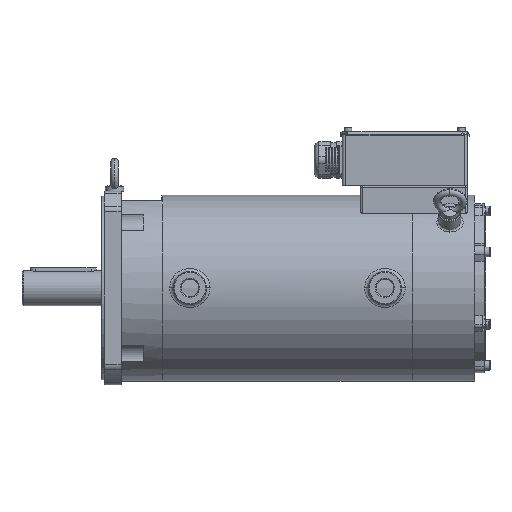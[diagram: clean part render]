
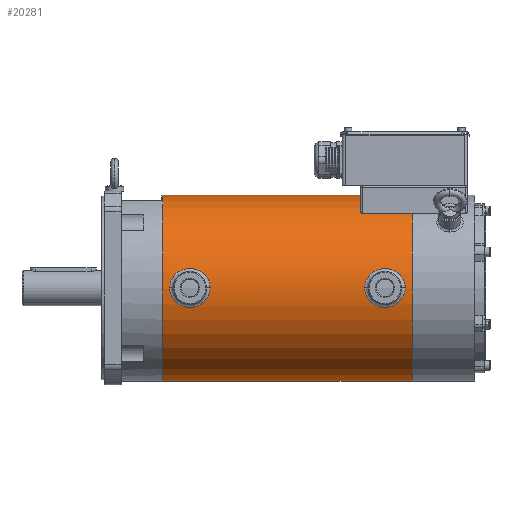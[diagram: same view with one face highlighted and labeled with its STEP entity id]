
A CAD part, top view. The second image highlights one B-rep face of the part: STEP entity #20281.
In plain terms, the highlighted cylindrical face has radius 126.5 mm (diameter 253 mm), a partial arc.
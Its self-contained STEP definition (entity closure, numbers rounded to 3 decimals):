
#14531=DIRECTION('',(-1.,0.,0.));
#14532=VECTOR('',#14531,339.5);
#14533=CARTESIAN_POINT('',(531.,126.5,0.));
#14534=LINE('',#14533,#14532);
#14616=CARTESIAN_POINT('',(531.,0.,0.));
#14617=DIRECTION('',(1.,0.,0.));
#14618=DIRECTION('',(0.,1.,0.));
#14619=AXIS2_PLACEMENT_3D('',#14616,#14617,#14618);
#14621=DIRECTION('',(-1.,0.,0.));
#14622=VECTOR('',#14621,339.5);
#14623=CARTESIAN_POINT('',(531.,-126.5,0.));
#14624=LINE('',#14623,#14622);
#14625=CARTESIAN_POINT('',(191.5,0.,0.));
#14626=DIRECTION('',(-1.,0.,0.));
#14627=DIRECTION('',(0.,-1.,0.));
#14628=AXIS2_PLACEMENT_3D('',#14625,#14626,#14627);
#14630=CARTESIAN_POINT('',(466.5,0.,126.5));
#14631=CARTESIAN_POINT('',(466.5,-1.821,
126.5));
#14632=CARTESIAN_POINT('',(466.882,-5.398,
126.422));
#14633=CARTESIAN_POINT('',(468.611,-10.654,
126.085));
#14634=CARTESIAN_POINT('',(471.456,-15.49,
125.576));
#14635=CARTESIAN_POINT('',(475.352,-19.717,
124.974));
#14636=CARTESIAN_POINT('',(480.121,-23.071,
124.389));
#14637=CARTESIAN_POINT('',(485.508,-25.372,
123.933));
#14638=CARTESIAN_POINT('',(491.272,-26.525,
123.688));
#14639=CARTESIAN_POINT('',(497.163,-26.481,
123.697));
#14640=CARTESIAN_POINT('',(502.923,-25.236,
123.962));
#14641=CARTESIAN_POINT('',(508.277,-22.845,
124.432));
#14642=CARTESIAN_POINT('',(512.948,-19.438,
125.017));
#14643=CARTESIAN_POINT('',(516.69,-15.281,
125.601));
#14644=CARTESIAN_POINT('',(519.513,-10.393,
126.108));
#14645=CARTESIAN_POINT('',(521.176,-5.086,
126.434));
#14646=CARTESIAN_POINT('',(521.5,-1.693,
126.5));
#14647=CARTESIAN_POINT('',(521.5,0.,126.5));
#14649=CARTESIAN_POINT('',(521.5,0.,126.5));
#14650=CARTESIAN_POINT('',(521.5,1.821,126.5));
#14651=CARTESIAN_POINT('',(521.118,5.397,126.422));
#14652=CARTESIAN_POINT('',(519.389,10.655,126.085));
#14653=CARTESIAN_POINT('',(516.543,15.491,125.576));
#14654=CARTESIAN_POINT('',(512.646,19.718,124.974));
#14655=CARTESIAN_POINT('',(507.878,23.072,124.389));
#14656=CARTESIAN_POINT('',(502.491,25.372,123.933));
#14657=CARTESIAN_POINT('',(496.728,26.525,123.688));
#14658=CARTESIAN_POINT('',(490.837,26.481,123.697));
#14659=CARTESIAN_POINT('',(485.079,25.237,123.961));
#14660=CARTESIAN_POINT('',(479.725,22.846,124.432));
#14661=CARTESIAN_POINT('',(475.053,19.439,125.017));
#14662=CARTESIAN_POINT('',(471.31,15.282,125.601));
#14663=CARTESIAN_POINT('',(468.487,10.393,126.108));
#14664=CARTESIAN_POINT('',(466.824,5.086,126.434));
#14665=CARTESIAN_POINT('',(466.5,1.693,126.5));
#14666=CARTESIAN_POINT('',(466.5,0.,126.5));
#14668=CARTESIAN_POINT('',(201.,0.,126.5));
#14669=CARTESIAN_POINT('',(201.,-1.821,
126.5));
#14670=CARTESIAN_POINT('',(201.382,-5.398,
126.422));
#14671=CARTESIAN_POINT('',(203.111,-10.654,
126.085));
#14672=CARTESIAN_POINT('',(205.956,-15.49,
125.576));
#14673=CARTESIAN_POINT('',(209.852,-19.717,
124.974));
#14674=CARTESIAN_POINT('',(214.621,-23.071,
124.389));
#14675=CARTESIAN_POINT('',(220.008,-25.372,
123.933));
#14676=CARTESIAN_POINT('',(225.772,-26.525,
123.688));
#14677=CARTESIAN_POINT('',(231.663,-26.481,
123.697));
#14678=CARTESIAN_POINT('',(237.423,-25.236,
123.962));
#14679=CARTESIAN_POINT('',(242.777,-22.845,
124.432));
#14680=CARTESIAN_POINT('',(247.448,-19.438,
125.017));
#14681=CARTESIAN_POINT('',(251.19,-15.281,
125.601));
#14682=CARTESIAN_POINT('',(254.013,-10.393,
126.108));
#14683=CARTESIAN_POINT('',(255.676,-5.086,
126.434));
#14684=CARTESIAN_POINT('',(256.,-1.693,
126.5));
#14685=CARTESIAN_POINT('',(256.,0.,126.5));
#14687=CARTESIAN_POINT('',(256.,0.,126.5));
#14688=CARTESIAN_POINT('',(256.,1.821,126.5));
#14689=CARTESIAN_POINT('',(255.618,5.397,126.422));
#14690=CARTESIAN_POINT('',(253.889,10.655,126.085));
#14691=CARTESIAN_POINT('',(251.043,15.491,125.576));
#14692=CARTESIAN_POINT('',(247.146,19.718,124.974));
#14693=CARTESIAN_POINT('',(242.378,23.072,124.389));
#14694=CARTESIAN_POINT('',(236.991,25.372,123.933));
#14695=CARTESIAN_POINT('',(231.228,26.525,123.688));
#14696=CARTESIAN_POINT('',(225.337,26.481,123.697));
#14697=CARTESIAN_POINT('',(219.579,25.237,123.961));
#14698=CARTESIAN_POINT('',(214.225,22.846,124.432));
#14699=CARTESIAN_POINT('',(209.553,19.439,125.017));
#14700=CARTESIAN_POINT('',(205.81,15.282,125.601));
#14701=CARTESIAN_POINT('',(202.987,10.393,126.108));
#14702=CARTESIAN_POINT('',(201.324,5.086,126.434));
#14703=CARTESIAN_POINT('',(201.,1.693,126.5));
#14704=CARTESIAN_POINT('',(201.,0.,126.5));
#19950=CARTESIAN_POINT('',(531.,126.5,0.));
#19951=CARTESIAN_POINT('',(531.,-126.5,0.));
#19952=VERTEX_POINT('',#19950);
#19953=VERTEX_POINT('',#19951);
#19954=CARTESIAN_POINT('',(191.5,126.5,0.));
#19955=CARTESIAN_POINT('',(191.5,-126.5,0.));
#19956=VERTEX_POINT('',#19954);
#19957=VERTEX_POINT('',#19955);
#20178=VERTEX_POINT('',#14630);
#20179=VERTEX_POINT('',#14647);
#20182=VERTEX_POINT('',#14668);
#20183=VERTEX_POINT('',#14685);
#20256=CARTESIAN_POINT('',(531.,0.,0.));
#20257=DIRECTION('',(-1.,0.,0.));
#20258=DIRECTION('',(0.,1.,0.));
#20259=AXIS2_PLACEMENT_3D('',#20256,#20257,#20258);
#20260=CYLINDRICAL_SURFACE('',#20259,126.5);
#20262=ORIENTED_EDGE('',*,*,#20261,.T.);
#20263=ORIENTED_EDGE('',*,*,#20239,.T.);
#20265=ORIENTED_EDGE('',*,*,#20264,.T.);
#20266=ORIENTED_EDGE('',*,*,#20235,.F.);
#20267=EDGE_LOOP('',(#20262,#20263,#20265,#20266));
#20268=FACE_OUTER_BOUND('',#20267,.F.);
#20270=ORIENTED_EDGE('',*,*,#20269,.T.);
#20272=ORIENTED_EDGE('',*,*,#20271,.T.);
#20273=EDGE_LOOP('',(#20270,#20272));
#20274=FACE_BOUND('',#20273,.F.);
#20276=ORIENTED_EDGE('',*,*,#20275,.T.);
#20278=ORIENTED_EDGE('',*,*,#20277,.T.);
#20279=EDGE_LOOP('',(#20276,#20278));
#20280=FACE_BOUND('',#20279,.F.);
#20281=ADVANCED_FACE('',(#20268,#20274,#20280),#20260,.T.);
#14620=CIRCLE('',#14619,126.5);
#14629=CIRCLE('',#14628,126.5);
#14648=B_SPLINE_CURVE_WITH_KNOTS('',3,(#14630,#14631,#14632,#14633,#14634,
#14635,#14636,#14637,#14638,#14639,#14640,#14641,#14642,#14643,#14644,#14645,
#14646,#14647),.UNSPECIFIED.,.F.,.F.,(4,1,1,1,1,1,1,1,1,1,1,1,1,1,1,4),(0.,
0.067,0.133,0.2,0.267,0.333,
0.4,0.467,0.533,0.6,0.667,
0.733,0.8,0.867,0.933,1.),
.UNSPECIFIED.);
#14667=B_SPLINE_CURVE_WITH_KNOTS('',3,(#14649,#14650,#14651,#14652,#14653,
#14654,#14655,#14656,#14657,#14658,#14659,#14660,#14661,#14662,#14663,#14664,
#14665,#14666),.UNSPECIFIED.,.F.,.F.,(4,1,1,1,1,1,1,1,1,1,1,1,1,1,1,4),(0.,
0.067,0.133,0.2,0.267,0.333,
0.4,0.467,0.533,0.6,0.667,
0.733,0.8,0.867,0.933,1.),
.UNSPECIFIED.);
#14686=B_SPLINE_CURVE_WITH_KNOTS('',3,(#14668,#14669,#14670,#14671,#14672,
#14673,#14674,#14675,#14676,#14677,#14678,#14679,#14680,#14681,#14682,#14683,
#14684,#14685),.UNSPECIFIED.,.F.,.F.,(4,1,1,1,1,1,1,1,1,1,1,1,1,1,1,4),(0.,
0.067,0.133,0.2,0.267,0.333,
0.4,0.467,0.533,0.6,0.667,
0.733,0.8,0.867,0.933,1.),
.UNSPECIFIED.);
#14705=B_SPLINE_CURVE_WITH_KNOTS('',3,(#14687,#14688,#14689,#14690,#14691,
#14692,#14693,#14694,#14695,#14696,#14697,#14698,#14699,#14700,#14701,#14702,
#14703,#14704),.UNSPECIFIED.,.F.,.F.,(4,1,1,1,1,1,1,1,1,1,1,1,1,1,1,4),(0.,
0.067,0.133,0.2,0.267,0.333,
0.4,0.467,0.533,0.6,0.667,
0.733,0.8,0.867,0.933,1.),
.UNSPECIFIED.);
#20235=EDGE_CURVE('',#19952,#19956,#14534,.T.);
#20239=EDGE_CURVE('',#19953,#19957,#14624,.T.);
#20261=EDGE_CURVE('',#19952,#19953,#14620,.T.);
#20264=EDGE_CURVE('',#19957,#19956,#14629,.T.);
#20269=EDGE_CURVE('',#20178,#20179,#14648,.T.);
#20271=EDGE_CURVE('',#20179,#20178,#14667,.T.);
#20275=EDGE_CURVE('',#20182,#20183,#14686,.T.);
#20277=EDGE_CURVE('',#20183,#20182,#14705,.T.);
